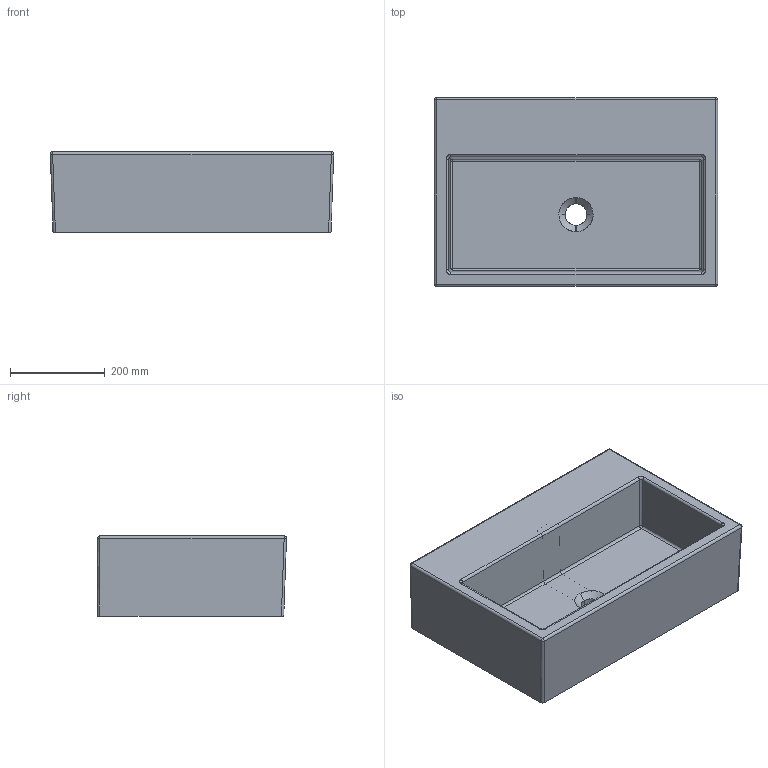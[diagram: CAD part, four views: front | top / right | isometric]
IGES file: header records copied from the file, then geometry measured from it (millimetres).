
Start section: START RECORD GO HERE.
Global section: file name: 6102_3D.igs; native system: DASSAULT SYSTEMES CATIA V5 R19 - www.3ds.com; preprocessor: CATIA Version 5 Release 19 SP 5 ; author: gioge; organization: LAPTOP-G94B6G74; date: 20201026.143324; units: millimetre
Bounding box: 599.64 x 399.82 x 170 mm (x, y, z)
Surface area: 772061 mm2 (no closed solid volume)
Topology: 0 solids, 0 shells, 67 faces, 291 edges, 291 vertices
Faces by surface type: revolution 39, bspline 19, plane 9
